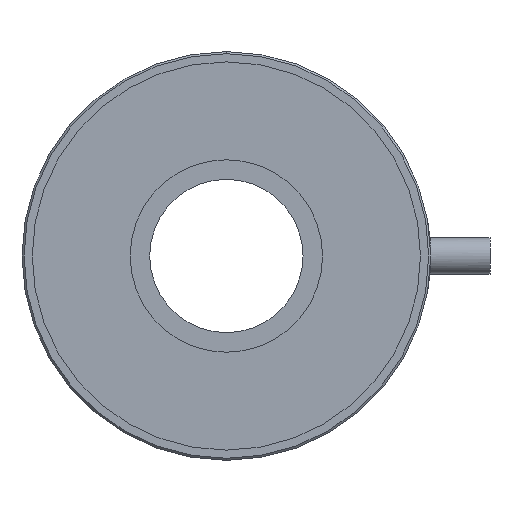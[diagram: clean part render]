
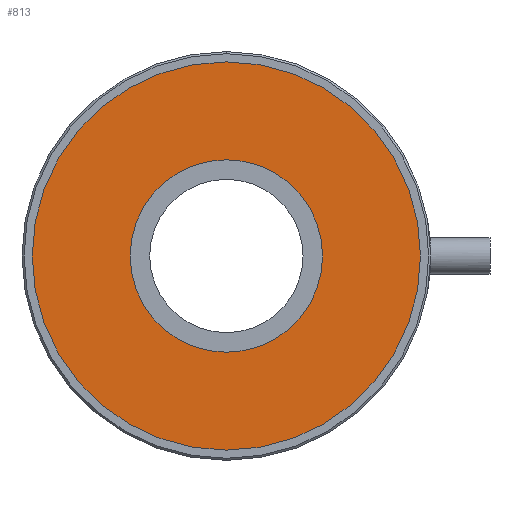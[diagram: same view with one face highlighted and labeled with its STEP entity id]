
A CAD part, front view. The second image highlights one B-rep face of the part: STEP entity #813.
In plain terms, the highlighted planar face has unit normal (0, -1, 0).
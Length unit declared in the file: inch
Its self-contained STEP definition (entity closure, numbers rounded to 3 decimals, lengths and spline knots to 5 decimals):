
#27 = EDGE_LOOP ( 'NONE', ( #149, #128 ) ) ;
#34 = EDGE_LOOP ( 'NONE', ( #151, #152 ) ) ;
#128 = ORIENTED_EDGE ( 'NONE', *, *, #734, .F. ) ;
#149 = ORIENTED_EDGE ( 'NONE', *, *, #729, .F. ) ;
#151 = ORIENTED_EDGE ( 'NONE', *, *, #744, .T. ) ;
#152 = ORIENTED_EDGE ( 'NONE', *, *, #706, .T. ) ;
#193 = CIRCLE ( 'NONE', #711, 0.95 ) ;
#225 = CIRCLE ( 'NONE', #774, 0.471 ) ;
#238 = CIRCLE ( 'NONE', #763, 0.95 ) ;
#246 = CIRCLE ( 'NONE', #789, 0.471 ) ;
#281 = FACE_OUTER_BOUND ( 'NONE', #34, .T. ) ;
#286 = FACE_BOUND ( 'NONE', #27, .T. ) ;
#306 = CARTESIAN_POINT ( 'NONE',  ( 0., 0.0231, -0.471 ) ) ;
#316 = CARTESIAN_POINT ( 'NONE',  ( 0., 0.0231, 0.95 ) ) ;
#325 = CARTESIAN_POINT ( 'NONE',  ( 0., 0.0231, -0.95 ) ) ;
#333 = CARTESIAN_POINT ( 'NONE',  ( 0., 0.0231, 0.471 ) ) ;
#356 = CARTESIAN_POINT ( 'NONE',  ( 0., 0.0231, 0. ) ) ;
#367 = DIRECTION ( 'NONE',  ( 0., -1., 0. ) ) ;
#369 = DIRECTION ( 'NONE',  ( 0., 0., -1. ) ) ;
#447 = DIRECTION ( 'NONE',  ( 0., -1., 0. ) ) ;
#449 = DIRECTION ( 'NONE',  ( 0., 0., -1. ) ) ;
#450 = DIRECTION ( 'NONE',  ( 0., 0., -1. ) ) ;
#459 = CARTESIAN_POINT ( 'NONE',  ( 0., 0.0231, 0. ) ) ;
#461 = DIRECTION ( 'NONE',  ( 0., 0., -1. ) ) ;
#462 = CARTESIAN_POINT ( 'NONE',  ( 0., 0.0231, 0. ) ) ;
#478 = DIRECTION ( 'NONE',  ( 0., -1., 0. ) ) ;
#486 = CARTESIAN_POINT ( 'NONE',  ( 0., 0.0231, 0. ) ) ;
#489 = DIRECTION ( 'NONE',  ( 0., -1., 0. ) ) ;
#545 = DIRECTION ( 'NONE',  ( 0., -1., 0. ) ) ;
#548 = PLANE ( 'NONE',  #762 ) ;
#560 = DIRECTION ( 'NONE',  ( 0., 0., -1. ) ) ;
#578 = CARTESIAN_POINT ( 'NONE',  ( 0., 0.0231, 0. ) ) ;
#650 = VERTEX_POINT ( 'NONE', #306 ) ;
#652 = VERTEX_POINT ( 'NONE', #333 ) ;
#656 = VERTEX_POINT ( 'NONE', #325 ) ;
#664 = VERTEX_POINT ( 'NONE', #316 ) ;
#706 = EDGE_CURVE ( 'NONE', #664, #656, #193, .T. ) ;
#711 = AXIS2_PLACEMENT_3D ( 'NONE', #356, #367, #369 ) ;
#729 = EDGE_CURVE ( 'NONE', #650, #652, #225, .T. ) ;
#734 = EDGE_CURVE ( 'NONE', #652, #650, #246, .T. ) ;
#744 = EDGE_CURVE ( 'NONE', #656, #664, #238, .T. ) ;
#762 = AXIS2_PLACEMENT_3D ( 'NONE', #578, #545, #560 ) ;
#763 = AXIS2_PLACEMENT_3D ( 'NONE', #459, #478, #461 ) ;
#774 = AXIS2_PLACEMENT_3D ( 'NONE', #486, #489, #450 ) ;
#789 = AXIS2_PLACEMENT_3D ( 'NONE', #462, #447, #449 ) ;
#813 = ADVANCED_FACE ( 'NONE', ( #286, #281 ), #548, .T. ) ;
